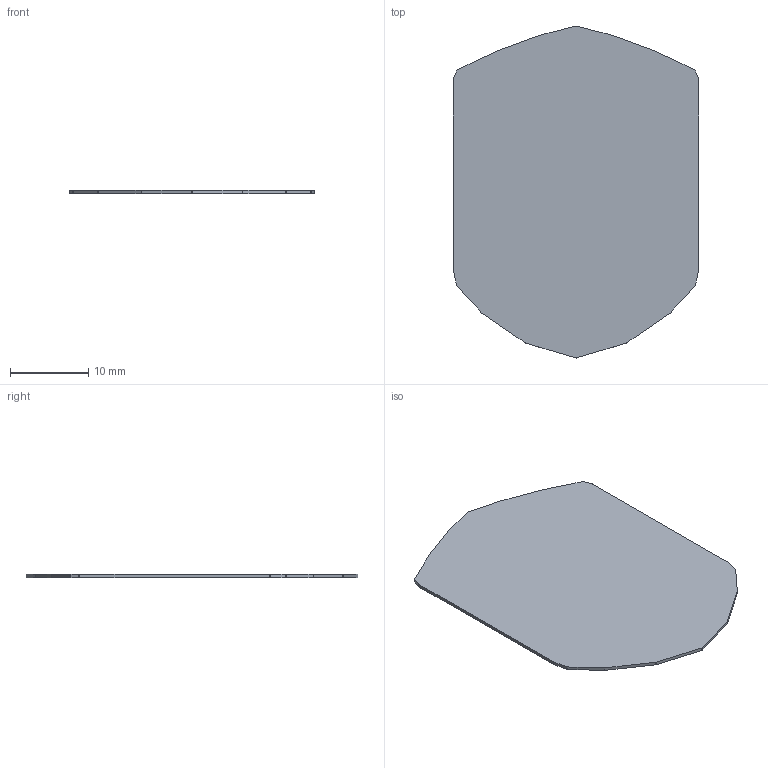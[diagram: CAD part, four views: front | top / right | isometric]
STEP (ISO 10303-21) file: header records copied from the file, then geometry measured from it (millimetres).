
FILE_DESCRIPTION(('Open CASCADE Model'),'2;1');
FILE_NAME('Open CASCADE Shape Model','2026-10-12T08:24:03',('Author'),( 'Open CASCADE'),'Open CASCADE STEP processor 7.8','Open CASCADE 7.8' ,'Unknown');
FILE_SCHEMA(('AUTOMOTIVE_DESIGN { 1 0 10303 214 1 1 1 1 }'));
Length unit declared in the file: millimetre
Products named in the file (1): Open CASCADE STEP translator 7.8 2
Bounding box: 31.42 x 42.48 x 0.4 mm (x, y, z)
Volume: 456.5 mm3; surface area: 2332.5 mm2
Topology: 1 solids, 1 shells, 34 faces, 96 edges, 64 vertices
Faces by surface type: plane 20, cylinder 14
Entity records: 2372 total; most frequent: CARTESIAN_POINT 399, DIRECTION 384, LINE 232, VECTOR 232, ORIENTED_EDGE 192, PCURVE 192, DEFINITIONAL_REPRESENTATION 192, EDGE_CURVE 96
